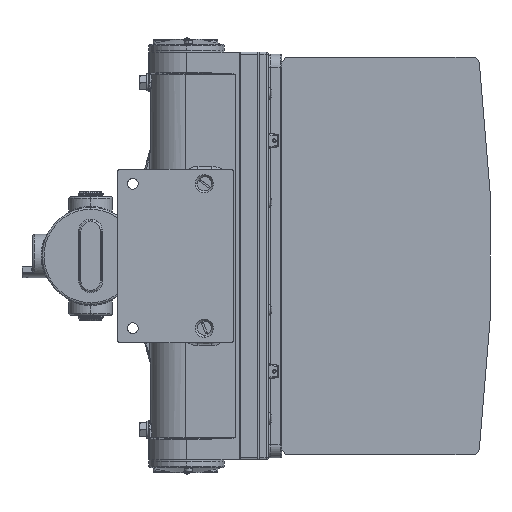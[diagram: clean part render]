
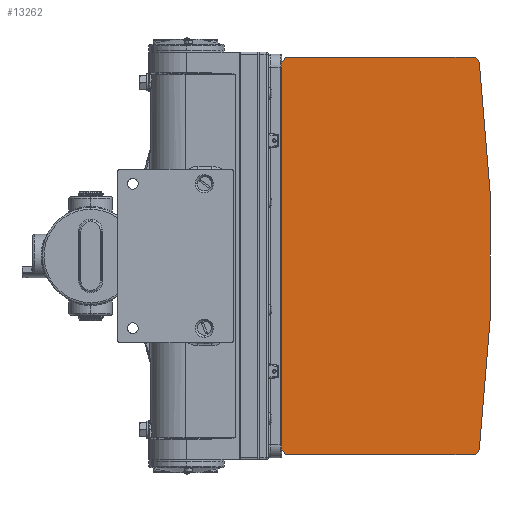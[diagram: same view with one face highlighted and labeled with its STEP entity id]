
A CAD part, left-side view. The second image highlights one B-rep face of the part: STEP entity #13262.
In plain terms, the highlighted planar face has unit normal (-1, 0, 0) as drawn and (0, 0, 1) by its records, which use the part's own axes.
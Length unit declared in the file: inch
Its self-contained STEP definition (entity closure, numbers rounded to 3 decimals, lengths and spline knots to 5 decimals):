
#1016 = LINE ( 'NONE', #30011, #48360 ) ;
#1179 = VERTEX_POINT ( 'NONE', #51375 ) ;
#1406 = LINE ( 'NONE', #25987, #13542 ) ;
#2065 = ORIENTED_EDGE ( 'NONE', *, *, #25377, .T. ) ;
#2349 = PLANE ( 'NONE',  #32091 ) ;
#4204 = CARTESIAN_POINT ( 'NONE',  ( -6.875, -0.235, 0.2375 ) ) ;
#4369 = DIRECTION ( 'NONE',  ( 0., 0., -1. ) ) ;
#5243 = FACE_OUTER_BOUND ( 'NONE', #38974, .T. ) ;
#6545 = CARTESIAN_POINT ( 'NONE',  ( -6.875, 0., 0.2375 ) ) ;
#6953 = DIRECTION ( 'NONE',  ( 1., 0., 0. ) ) ;
#6978 = ORIENTED_EDGE ( 'NONE', *, *, #14945, .T. ) ;
#7392 = ORIENTED_EDGE ( 'NONE', *, *, #9211, .T. ) ;
#7794 = CARTESIAN_POINT ( 'NONE',  ( -6.6875, 0., 0.2375 ) ) ;
#8678 = VECTOR ( 'NONE', #41220, 39.37008 ) ;
#9211 = EDGE_CURVE ( 'NONE', #1179, #32439, #21903, .T. ) ;
#10911 = LINE ( 'NONE', #6545, #58242 ) ;
#11683 = ORIENTED_EDGE ( 'NONE', *, *, #57284, .T. ) ;
#12618 = ORIENTED_EDGE ( 'NONE', *, *, #30873, .T. ) ;
#13262 = ADVANCED_FACE ( 'NONE', ( #5243 ), #2349, .T. ) ;
#13542 = VECTOR ( 'NONE', #51231, 39.37008 ) ;
#14891 = CIRCLE ( 'NONE', #19441, 0.24102 ) ;
#14945 = EDGE_CURVE ( 'NONE', #48690, #29420, #10911, .T. ) ;
#17558 = CIRCLE ( 'NONE', #22125, 0.22 ) ;
#18373 = CARTESIAN_POINT ( 'NONE',  ( 6.875, -6.74347, 0.2375 ) ) ;
#19298 = CARTESIAN_POINT ( 'NONE',  ( 6.92852, 0., 0.2375 ) ) ;
#19353 = CARTESIAN_POINT ( 'NONE',  ( 6.655, -6.74347, 0.2375 ) ) ;
#19441 = AXIS2_PLACEMENT_3D ( 'NONE', #19298, #51373, #23890 ) ;
#20917 = LINE ( 'NONE', #27351, #8678 ) ;
#21388 = CARTESIAN_POINT ( 'NONE',  ( -6.875, -6.74347, 0.2375 ) ) ;
#21615 = CARTESIAN_POINT ( 'NONE',  ( 6.6875, 0., 0.2375 ) ) ;
#21666 = ORIENTED_EDGE ( 'NONE', *, *, #39366, .T. ) ;
#21903 = CIRCLE ( 'NONE', #26553, 54.23661 ) ;
#22125 = AXIS2_PLACEMENT_3D ( 'NONE', #53053, #25554, #57681 ) ;
#23890 = DIRECTION ( 'NONE',  ( -1., 0., 0. ) ) ;
#23947 = DIRECTION ( 'NONE',  ( -1., 0., 0. ) ) ;
#25377 = EDGE_CURVE ( 'NONE', #29420, #1179, #17558, .T. ) ;
#25554 = DIRECTION ( 'NONE',  ( 0., 0., 1. ) ) ;
#25987 = CARTESIAN_POINT ( 'NONE',  ( 6.875, 0., 0.2375 ) ) ;
#26359 = LINE ( 'NONE', #49931, #50782 ) ;
#26462 = DIRECTION ( 'NONE',  ( 0., 0., 1. ) ) ;
#26553 = AXIS2_PLACEMENT_3D ( 'NONE', #53960, #26462, #58581 ) ;
#26584 = EDGE_CURVE ( 'NONE', #30097, #34474, #1016, .T. ) ;
#27049 = DIRECTION ( 'NONE',  ( 0., 1., 0. ) ) ;
#27351 = CARTESIAN_POINT ( 'NONE',  ( -6.6875, 0., 0.2375 ) ) ;
#29420 = VERTEX_POINT ( 'NONE', #21388 ) ;
#30011 = CARTESIAN_POINT ( 'NONE',  ( 6.92852, 0.35, 0.2375 ) ) ;
#30097 = VERTEX_POINT ( 'NONE', #44524 ) ;
#30873 = EDGE_CURVE ( 'NONE', #34474, #33400, #20917, .T. ) ;
#31829 = CARTESIAN_POINT ( 'NONE',  ( -6.92852, 0., 0.2375 ) ) ;
#32091 = AXIS2_PLACEMENT_3D ( 'NONE', #57279, #34399, #6953 ) ;
#32439 = VERTEX_POINT ( 'NONE', #33034 ) ;
#32737 = ORIENTED_EDGE ( 'NONE', *, *, #59107, .T. ) ;
#33034 = CARTESIAN_POINT ( 'NONE',  ( 6.6821, -6.9618, 0.2375 ) ) ;
#33400 = VERTEX_POINT ( 'NONE', #7794 ) ;
#33936 = ORIENTED_EDGE ( 'NONE', *, *, #26584, .T. ) ;
#34382 = CIRCLE ( 'NONE', #40202, 0.24102 ) ;
#34399 = DIRECTION ( 'NONE',  ( 0., 0., 1. ) ) ;
#34474 = VERTEX_POINT ( 'NONE', #50997 ) ;
#36446 = DIRECTION ( 'NONE',  ( -1., 0., 0. ) ) ;
#37638 = ORIENTED_EDGE ( 'NONE', *, *, #57622, .T. ) ;
#38974 = EDGE_LOOP ( 'NONE', ( #21666, #37638, #42348, #32737, #33936, #12618, #11683, #6978, #2065, #7392 ) ) ;
#39366 = EDGE_CURVE ( 'NONE', #32439, #40800, #49435, .T. ) ;
#40202 = AXIS2_PLACEMENT_3D ( 'NONE', #31829, #4369, #36446 ) ;
#40800 = VERTEX_POINT ( 'NONE', #18373 ) ;
#41220 = DIRECTION ( 'NONE',  ( 0., -1., 0. ) ) ;
#42348 = ORIENTED_EDGE ( 'NONE', *, *, #43132, .T. ) ;
#43132 = EDGE_CURVE ( 'NONE', #53261, #46767, #14891, .T. ) ;
#43780 = AXIS2_PLACEMENT_3D ( 'NONE', #19353, #51423, #23947 ) ;
#44524 = CARTESIAN_POINT ( 'NONE',  ( 6.6875, 0.35, 0.2375 ) ) ;
#46767 = VERTEX_POINT ( 'NONE', #21615 ) ;
#47861 = DIRECTION ( 'NONE',  ( 0., -1., 0. ) ) ;
#48360 = VECTOR ( 'NONE', #57541, 39.37008 ) ;
#48690 = VERTEX_POINT ( 'NONE', #4204 ) ;
#49435 = CIRCLE ( 'NONE', #43780, 0.22 ) ;
#49931 = CARTESIAN_POINT ( 'NONE',  ( 6.6875, 0., 0.2375 ) ) ;
#50782 = VECTOR ( 'NONE', #27049, 39.37008 ) ;
#50997 = CARTESIAN_POINT ( 'NONE',  ( -6.6875, 0.35, 0.2375 ) ) ;
#51231 = DIRECTION ( 'NONE',  ( 0., 1., 0. ) ) ;
#51373 = DIRECTION ( 'NONE',  ( 0., 0., -1. ) ) ;
#51375 = CARTESIAN_POINT ( 'NONE',  ( -6.6821, -6.9618, 0.2375 ) ) ;
#51423 = DIRECTION ( 'NONE',  ( 0., 0., 1. ) ) ;
#51823 = CARTESIAN_POINT ( 'NONE',  ( 6.875, -0.235, 0.2375 ) ) ;
#53053 = CARTESIAN_POINT ( 'NONE',  ( -6.655, -6.74347, 0.2375 ) ) ;
#53261 = VERTEX_POINT ( 'NONE', #51823 ) ;
#53960 = CARTESIAN_POINT ( 'NONE',  ( 0., 46.86161, 0.2375 ) ) ;
#57279 = CARTESIAN_POINT ( 'NONE',  ( 6.92852, 0., 0.2375 ) ) ;
#57284 = EDGE_CURVE ( 'NONE', #33400, #48690, #34382, .T. ) ;
#57541 = DIRECTION ( 'NONE',  ( -1., 0., 0. ) ) ;
#57622 = EDGE_CURVE ( 'NONE', #40800, #53261, #1406, .T. ) ;
#57681 = DIRECTION ( 'NONE',  ( -1., 0., 0. ) ) ;
#58242 = VECTOR ( 'NONE', #47861, 39.37008 ) ;
#58581 = DIRECTION ( 'NONE',  ( -1., 0., 0. ) ) ;
#59107 = EDGE_CURVE ( 'NONE', #46767, #30097, #26359, .T. ) ;
